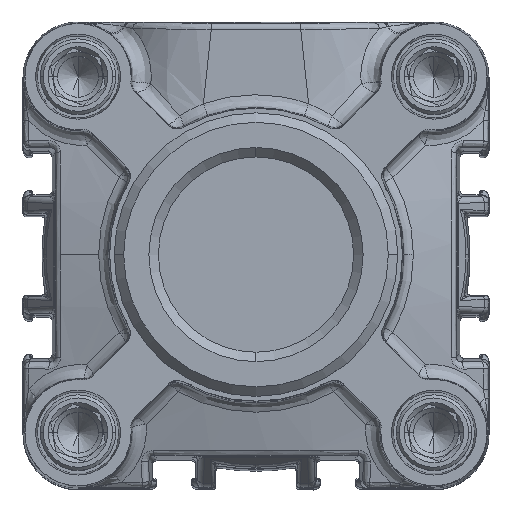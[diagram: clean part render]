
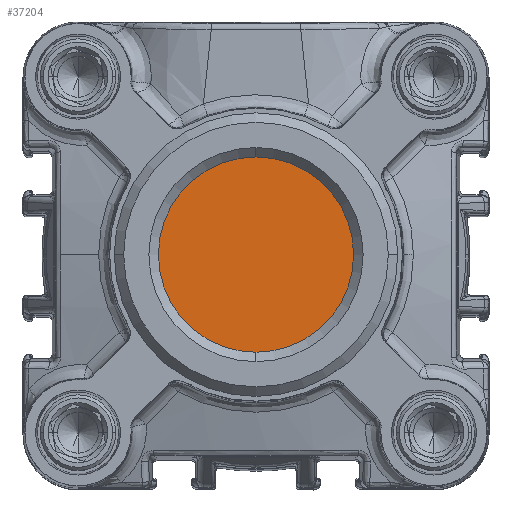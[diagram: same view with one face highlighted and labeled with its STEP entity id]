
A CAD part, top view. The second image highlights one B-rep face of the part: STEP entity #37204.
In plain terms, the highlighted planar face has unit normal (0, 0, 1).
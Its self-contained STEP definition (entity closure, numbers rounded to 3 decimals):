
#17911 = EDGE_CURVE ( 'NONE', #59456, #59451, #61575, .T. ) ;
#17944 = EDGE_CURVE ( 'NONE', #59451, #59456, #61643, .T. ) ;
#18330 = AXIS2_PLACEMENT_3D ( 'NONE', #45279, #45280, #45282 ) ;
#18343 = AXIS2_PLACEMENT_3D ( 'NONE', #45534, #45535, #45536 ) ;
#25402 = CARTESIAN_POINT ( 'NONE',  ( -15.686, -15.686, 38.5 ) ) ;
#25405 = PLANE ( 'NONE',  #42923 ) ;
#25409 = DIRECTION ( 'NONE',  ( 0., 0., 1. ) ) ;
#25411 = DIRECTION ( 'NONE',  ( 1., 0., 0. ) ) ;
#37204 = ADVANCED_FACE ( 'NONE', ( #43978 ), #25405, .T. ) ;
#39757 = CARTESIAN_POINT ( 'NONE',  ( 0., -15.5, 38.5 ) ) ;
#39761 = CARTESIAN_POINT ( 'NONE',  ( 0., 15.5, 38.5 ) ) ;
#42923 = AXIS2_PLACEMENT_3D ( 'NONE', #25402, #25409, #25411 ) ;
#43978 = FACE_OUTER_BOUND ( 'NONE', #60478, .T. ) ;
#45279 = CARTESIAN_POINT ( 'NONE',  ( 0., 0., 38.5 ) ) ;
#45280 = DIRECTION ( 'NONE',  ( 0., 0., -1. ) ) ;
#45282 = DIRECTION ( 'NONE',  ( 0., -1., 0. ) ) ;
#45534 = CARTESIAN_POINT ( 'NONE',  ( 0., 0., 38.5 ) ) ;
#45535 = DIRECTION ( 'NONE',  ( 0., 0., -1. ) ) ;
#45536 = DIRECTION ( 'NONE',  ( 0., -1., 0. ) ) ;
#57255 = ORIENTED_EDGE ( 'NONE', *, *, #17944, .F. ) ;
#57256 = ORIENTED_EDGE ( 'NONE', *, *, #17911, .F. ) ;
#59451 = VERTEX_POINT ( 'NONE', #39757 ) ;
#59456 = VERTEX_POINT ( 'NONE', #39761 ) ;
#60478 = EDGE_LOOP ( 'NONE', ( #57255, #57256 ) ) ;
#61575 = CIRCLE ( 'NONE', #18330, 15.5 ) ;
#61643 = CIRCLE ( 'NONE', #18343, 15.5 ) ;
